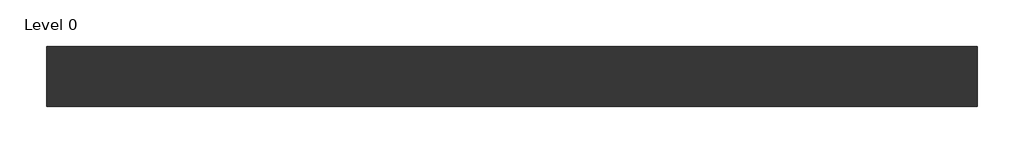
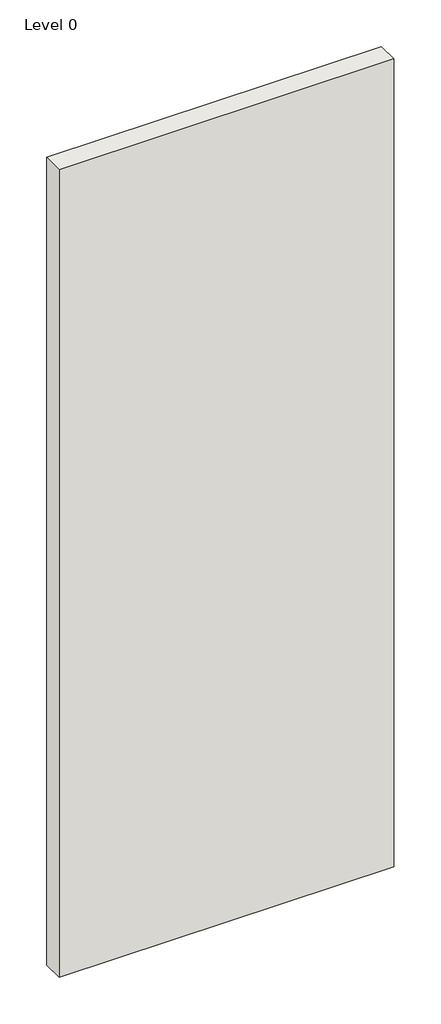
# One storey: 1 wall.
"""IFC4 building model written with IfcOpenShell, lengths in millimetres."""

import ifcopenshell
import ifcopenshell.guid

model = None  # the IFC model being written
_history = None  # IfcOwnerHistory: only IFC2X3 demands one
_inside = {}  # id of a spatial element -> (the spatial element, [elements in it])
_under = {}  # id of a project, library or spatial element -> (it, [spatial elements below it])
_declared = {}  # id of a project -> (the project, [libraries it declares])
_typed = {}  # id of a type object -> (the type object, [elements of that type])
_made_of = {}  # id of a material, layer set ... -> (it, [elements and type objects made of it])


def new_model(schema):
    """Start an empty IFC model of exactly this schema.

    Asked for "IFC4X3", IfcOpenShell would pick the latest addendum, in which some entities
    have other attributes; the version numbers below select the first issue.
    IFC2X3 requires an IfcOwnerHistory on every rooted entity: one is made here for all.
    """
    global model, _history
    if schema == "IFC4X3":
        model = ifcopenshell.file(schema_version=(4, 3, 0, 0))
    else:
        model = ifcopenshell.file(schema=schema)
    _inside.clear()
    _under.clear()
    _declared.clear()
    _typed.clear()
    _made_of.clear()
    _history = None
    if model.schema == "IFC2X3":
        org = make("IfcOrganization", Name="unknown")
        user = make(
            "IfcPersonAndOrganization",
            ThePerson=make("IfcPerson", FamilyName="unknown"),
            TheOrganization=org,
        )
        app = make(
            "IfcApplication",
            ApplicationDeveloper=org,
            Version="unknown",
            ApplicationFullName="unknown",
            ApplicationIdentifier="unknown",
        )
        _history = make(
            "IfcOwnerHistory",
            OwningUser=user,
            OwningApplication=app,
            ChangeAction="ADDED",
            CreationDate=0,
        )
    return model


def make(cls, **values):
    """One entity of the class cls with the attributes given. An attribute that is None is left unset."""
    return model.create_entity(
        cls, **{name: value for name, value in values.items() if value is not None}
    )


def rooted(cls, **values):
    """An entity with a GlobalId (a new one), such as an element, a storey or a relation."""
    return make(cls, GlobalId=ifcopenshell.guid.new(), OwnerHistory=_history, **values)


def si_unit(unit_type, name, prefix=None):
    """IfcSIUnit, for example si_unit("LENGTHUNIT", "METRE", prefix="MILLI")."""
    return make("IfcSIUnit", UnitType=unit_type, Prefix=prefix, Name=name)


def assignment(units):
    """IfcUnitAssignment: the units of a project."""
    return None if units is None else make("IfcUnitAssignment", Units=units)


def point(xyz):
    """IfcCartesianPoint."""
    return None if xyz is None else make("IfcCartesianPoint", Coordinates=xyz)


def direction(xyz):
    """IfcDirection."""
    return None if xyz is None else make("IfcDirection", DirectionRatios=xyz)


def frame(location, z_axis=None, x_axis=None):
    """IfcAxis2Placement3D, a coordinate frame: its origin and axes. An axis left out is left unset."""
    return make(
        "IfcAxis2Placement3D",
        Location=point(location),
        Axis=direction(z_axis),
        RefDirection=direction(x_axis),
    )


def origin():
    """The frame at (0, 0, 0) with its axes left unset."""
    return frame((0.0, 0.0, 0.0))


def origin_with_axes():
    """The frame at (0, 0, 0) with the z axis (0, 0, 1) and the x axis (1, 0, 0) written out."""
    return frame((0.0, 0.0, 0.0), z_axis=(0.0, 0.0, 1.0), x_axis=(1.0, 0.0, 0.0))


def place(relative_to, where):
    """IfcLocalPlacement: puts the frame where relative to a parent placement (None: the world)."""
    return make(
        "IfcLocalPlacement", PlacementRelTo=relative_to, RelativePlacement=where
    )


def context(
    kind, dimensions, precision=None, world=None, true_north=None, identifier=None
):
    """IfcGeometricRepresentationContext, for example the 3D "Model" context."""
    return make(
        "IfcGeometricRepresentationContext",
        ContextIdentifier=identifier,
        ContextType=kind,
        CoordinateSpaceDimension=dimensions,
        Precision=precision,
        WorldCoordinateSystem=world,
        TrueNorth=true_north,
    )


def project(units=None, contexts=None):
    """IfcProject with its units and contexts."""
    return rooted(
        "IfcProject",
        Name="project",
        RepresentationContexts=contexts,
        UnitsInContext=assignment(units),
    )


def spatial(cls, under=None, at=None, **own):
    """A site, building, storey or space (cls), placed at a placement, below another one or the project."""
    s = rooted(cls, ObjectPlacement=at, **own)
    if under is not None:
        _under.setdefault(under.id(), (under, []))[1].append(s)
    return s


def polyline(points):
    """IfcPolyline through the points."""
    return make("IfcPolyline", Points=[point(p) for p in points])


def outline(outer, holes=None, kind="AREA"):
    """IfcArbitraryClosedProfileDef: a profile drawn as a closed curve; with holes, ...WithVoids."""
    if holes is None:
        return make("IfcArbitraryClosedProfileDef", ProfileType=kind, OuterCurve=outer)
    return make(
        "IfcArbitraryProfileDefWithVoids",
        ProfileType=kind,
        OuterCurve=outer,
        InnerCurves=holes,
    )


def extrude(swept, where, along, depth):
    """IfcExtrudedAreaSolid: the profile swept, set in the frame where, extruded along a direction by depth."""
    return make(
        "IfcExtrudedAreaSolid",
        SweptArea=swept,
        Position=where,
        ExtrudedDirection=direction(along),
        Depth=depth,
    )


def shape(context_of_items, identifier, shape_type, items):
    """IfcShapeRepresentation: the items that make up one representation, for example the "Body"."""
    return make(
        "IfcShapeRepresentation",
        ContextOfItems=context_of_items,
        RepresentationIdentifier=identifier,
        RepresentationType=shape_type,
        Items=items,
    )


def made_of(thing, what):
    """Note that an element or type object is made of a material, layer set ...; save() writes the relation."""
    if what is not None:
        _made_of.setdefault(what.id(), (what, []))[1].append(thing)
    return thing


def element(
    cls,
    number,
    at=None,
    inside=None,
    cuts=None,
    type_object=None,
    material=None,
    context=None,
    identifier="Body",
    shape_type=None,
    held_by="IfcProductDefinitionShape",
    body=None,
    shapes=None,
    **own,
):
    """One element of the class cls, such as IfcWall. Its Tag is "e" and its number.

    at: its placement. inside: the storey or other place that contains it. cuts: it is an
    opening in that element (IfcRelVoidsElement). A single representation is given by context,
    identifier, shape_type and body (its items); several are given by shapes. held_by: the class
    of the entity that holds the representations. save() writes the other relations.
    """
    e = rooted(cls, Tag="e%d" % number, ObjectPlacement=at, **own)
    if body is not None:
        shapes = [shape(context, identifier, shape_type, body)]
    if shapes is not None:
        e.Representation = make(held_by, Representations=shapes)
    if inside is not None:
        _inside.setdefault(inside.id(), (inside, []))[1].append(e)
    if cuts is not None:
        rooted(
            "IfcRelVoidsElement", RelatingBuildingElement=cuts, RelatedOpeningElement=e
        )
    if type_object is not None:
        _typed.setdefault(type_object.id(), (type_object, []))[1].append(e)
    return made_of(e, material)


def aggregate(whole, parts):
    """IfcRelAggregates: a whole, such as a stair, and the parts it consists of."""
    return rooted("IfcRelAggregates", RelatingObject=whole, RelatedObjects=parts)


def save(model, path):
    """Write the relations noted so far, then the file.

    IfcRelAggregates (storeys below a building ...), IfcRelContainedInSpatialStructure (elements
    in a storey), IfcRelDefinesByType, IfcRelAssociatesMaterial and IfcRelDeclares: one each for
    every whole, place, type object, material and project.
    """
    for whole, parts in _under.values():
        aggregate(whole, parts)
    for where, things in _inside.values():
        rooted(
            "IfcRelContainedInSpatialStructure",
            RelatedElements=things,
            RelatingStructure=where,
        )
    for kind, things in _typed.values():
        rooted("IfcRelDefinesByType", RelatedObjects=things, RelatingType=kind)
    for what, things in _made_of.values():
        rooted("IfcRelAssociatesMaterial", RelatedObjects=things, RelatingMaterial=what)
    for by, libraries in _declared.values():
        rooted("IfcRelDeclares", RelatingContext=by, RelatedDefinitions=libraries)
    model.write(path)


model = new_model("IFC4")

# Units and contexts
model_context = context("Model", 3, world=origin())
ifc_project = project(units=[si_unit("LENGTHUNIT", "METRE", prefix="MILLI")], contexts=[model_context])

# Site, building, storey
site = spatial("IfcSite", under=ifc_project)
building = spatial("IfcBuilding", under=site)
storey = spatial("IfcBuildingStorey", under=building, Name="Level 0", Elevation=0.0)

# Wall
placement = place(None, origin())
element("IfcWall", 1, ObjectType="A206A091 - GypWall CLASSIC", at=placement, inside=storey, context=model_context, shape_type="SweptSolid", body=[
    extrude(outline(polyline([(1936.0807354, 494.7205641), (-1123.9192646, 494.7205641), (-1123.9192646, 692.7205641), (1936.0807354, 692.7205641), (1936.0807354, 494.7205641)])), origin_with_axes(), (0.0, 0.0, 1.0), 7800.0),
])

save(model, "model.ifc")
